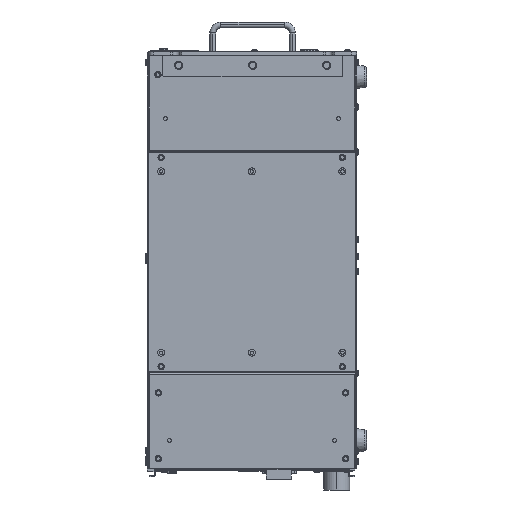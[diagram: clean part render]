
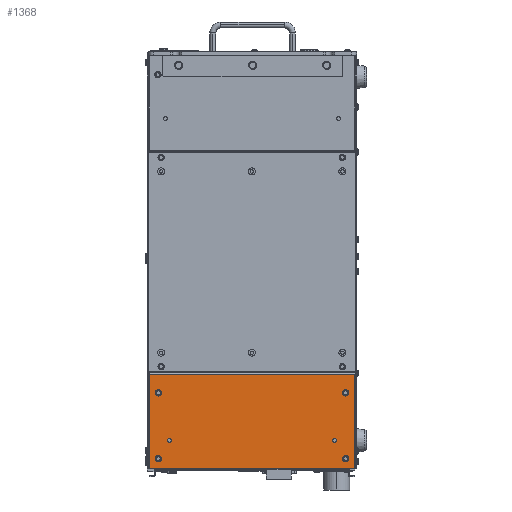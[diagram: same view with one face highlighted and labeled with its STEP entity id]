
A CAD part, left-side view. The second image highlights one B-rep face of the part: STEP entity #1368.
In plain terms, the highlighted planar face has unit normal (-1, 0, 0).
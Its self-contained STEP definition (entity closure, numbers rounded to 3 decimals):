
#1368 = ADVANCED_FACE( '', ( #4139, #4140, #4141, #4142, #4143, #4144, #4145 ), #4146, .T. );
#4139 = FACE_BOUND( '', #7209, .T. );
#4140 = FACE_BOUND( '', #7210, .T. );
#4141 = FACE_BOUND( '', #7211, .T. );
#4142 = FACE_BOUND( '', #7212, .T. );
#4143 = FACE_BOUND( '', #7213, .T. );
#4144 = FACE_BOUND( '', #7214, .T. );
#4145 = FACE_OUTER_BOUND( '', #7215, .T. );
#4146 = PLANE( '', #7216 );
#7209 = EDGE_LOOP( '', ( #17294, #17295 ) );
#7210 = EDGE_LOOP( '', ( #17296, #17297 ) );
#7211 = EDGE_LOOP( '', ( #17298, #17299 ) );
#7212 = EDGE_LOOP( '', ( #17300, #17301 ) );
#7213 = EDGE_LOOP( '', ( #17302, #17303 ) );
#7214 = EDGE_LOOP( '', ( #17304, #17305 ) );
#7215 = EDGE_LOOP( '', ( #17306, #17307, #17308, #17309 ) );
#7216 = AXIS2_PLACEMENT_3D( '', #17310, #17311, #17312 );
#17294 = ORIENTED_EDGE( '', *, *, #20021, .T. );
#17295 = ORIENTED_EDGE( '', *, *, #20467, .T. );
#17296 = ORIENTED_EDGE( '', *, *, #20009, .T. );
#17297 = ORIENTED_EDGE( '', *, *, #20473, .T. );
#17298 = ORIENTED_EDGE( '', *, *, #20475, .T. );
#17299 = ORIENTED_EDGE( '', *, *, #20005, .T. );
#17300 = ORIENTED_EDGE( '', *, *, #20478, .T. );
#17301 = ORIENTED_EDGE( '', *, *, #19995, .T. );
#17302 = ORIENTED_EDGE( '', *, *, #20481, .T. );
#17303 = ORIENTED_EDGE( '', *, *, #19985, .T. );
#17304 = ORIENTED_EDGE( '', *, *, #20495, .T. );
#17305 = ORIENTED_EDGE( '', *, *, #19925, .T. );
#17306 = ORIENTED_EDGE( '', *, *, #22430, .T. );
#17307 = ORIENTED_EDGE( '', *, *, #21043, .T. );
#17308 = ORIENTED_EDGE( '', *, *, #22427, .F. );
#17309 = ORIENTED_EDGE( '', *, *, #22393, .T. );
#17310 = CARTESIAN_POINT( '', ( -215.5, 208., 208.7 ) );
#17311 = DIRECTION( '', ( -1., 0., 0. ) );
#17312 = DIRECTION( '', ( 0., 1., 0. ) );
#19925 = EDGE_CURVE( '', #24127, #24125, #24128, .T. );
#19985 = EDGE_CURVE( '', #24241, #24239, #24242, .T. );
#19995 = EDGE_CURVE( '', #24260, #24258, #24261, .T. );
#20005 = EDGE_CURVE( '', #24279, #24277, #24280, .T. );
#20009 = EDGE_CURVE( '', #24287, #24284, #24288, .T. );
#20021 = EDGE_CURVE( '', #24311, #24308, #24312, .T. );
#20467 = EDGE_CURVE( '', #24308, #24311, #25063, .T. );
#20473 = EDGE_CURVE( '', #24284, #24287, #25069, .T. );
#20475 = EDGE_CURVE( '', #24277, #24279, #25071, .T. );
#20478 = EDGE_CURVE( '', #24258, #24260, #25074, .T. );
#20481 = EDGE_CURVE( '', #24239, #24241, #25077, .T. );
#20495 = EDGE_CURVE( '', #24125, #24127, #25091, .T. );
#21043 = EDGE_CURVE( '', #25946, #25944, #25947, .T. );
#22393 = EDGE_CURVE( '', #28127, #28125, #28128, .T. );
#22427 = EDGE_CURVE( '', #28127, #25944, #28187, .T. );
#22430 = EDGE_CURVE( '', #28125, #25946, #28191, .T. );
#24125 = VERTEX_POINT( '', #30360 );
#24127 = VERTEX_POINT( '', #30363 );
#24128 = CIRCLE( '', #30364, 3.15 );
#24239 = VERTEX_POINT( '', #30486 );
#24241 = VERTEX_POINT( '', #30489 );
#24242 = CIRCLE( '', #30490, 3.15 );
#24258 = VERTEX_POINT( '', #30507 );
#24260 = VERTEX_POINT( '', #30510 );
#24261 = CIRCLE( '', #30511, 3.15 );
#24277 = VERTEX_POINT( '', #30528 );
#24279 = VERTEX_POINT( '', #30531 );
#24280 = CIRCLE( '', #30532, 3.15 );
#24284 = VERTEX_POINT( '', #30537 );
#24287 = VERTEX_POINT( '', #30541 );
#24288 = CIRCLE( '', #30542, 2. );
#24308 = VERTEX_POINT( '', #30567 );
#24311 = VERTEX_POINT( '', #30571 );
#24312 = CIRCLE( '', #30572, 2. );
#25063 = CIRCLE( '', #31582, 2. );
#25069 = CIRCLE( '', #31588, 2. );
#25071 = CIRCLE( '', #31590, 3.15 );
#25074 = CIRCLE( '', #31593, 3.15 );
#25077 = CIRCLE( '', #31596, 3.15 );
#25091 = CIRCLE( '', #31610, 3.15 );
#25944 = VERTEX_POINT( '', #32836 );
#25946 = VERTEX_POINT( '', #32838 );
#25947 = LINE( '', #32839, #32840 );
#28125 = VERTEX_POINT( '', #36113 );
#28127 = VERTEX_POINT( '', #36115 );
#28128 = LINE( '', #36116, #36117 );
#28187 = LINE( '', #36197, #36198 );
#28191 = LINE( '', #36204, #36205 );
#30360 = CARTESIAN_POINT( '', ( -215.5, 14.15, -198.6 ) );
#30363 = CARTESIAN_POINT( '', ( -215.5, 7.85, -198.6 ) );
#30364 = AXIS2_PLACEMENT_3D( '', #38766, #38767, #38768 );
#30486 = CARTESIAN_POINT( '', ( -215.5, 14.15, -132.6 ) );
#30489 = CARTESIAN_POINT( '', ( -215.5, 7.85, -132.6 ) );
#30490 = AXIS2_PLACEMENT_3D( '', #38922, #38923, #38924 );
#30507 = CARTESIAN_POINT( '', ( -215.5, 202.15, -132.6 ) );
#30510 = CARTESIAN_POINT( '', ( -215.5, 195.85, -132.6 ) );
#30511 = AXIS2_PLACEMENT_3D( '', #38948, #38949, #38950 );
#30528 = CARTESIAN_POINT( '', ( -215.5, 202.15, -198.6 ) );
#30531 = CARTESIAN_POINT( '', ( -215.5, 195.85, -198.6 ) );
#30532 = AXIS2_PLACEMENT_3D( '', #38974, #38975, #38976 );
#30537 = CARTESIAN_POINT( '', ( -215.5, 22., -182.3 ) );
#30541 = CARTESIAN_POINT( '', ( -215.5, 22., -178.3 ) );
#30542 = AXIS2_PLACEMENT_3D( '', #38982, #38983, #38984 );
#30567 = CARTESIAN_POINT( '', ( -215.5, 188., -182.3 ) );
#30571 = CARTESIAN_POINT( '', ( -215.5, 188., -178.3 ) );
#30572 = AXIS2_PLACEMENT_3D( '', #39006, #39007, #39008 );
#31582 = AXIS2_PLACEMENT_3D( '', #39826, #39827, #39828 );
#31588 = AXIS2_PLACEMENT_3D( '', #39844, #39845, #39846 );
#31590 = AXIS2_PLACEMENT_3D( '', #39850, #39851, #39852 );
#31593 = AXIS2_PLACEMENT_3D( '', #39859, #39860, #39861 );
#31596 = AXIS2_PLACEMENT_3D( '', #39868, #39869, #39870 );
#31610 = AXIS2_PLACEMENT_3D( '', #39910, #39911, #39912 );
#32836 = CARTESIAN_POINT( '', ( -215.5, 2., -208.7 ) );
#32838 = CARTESIAN_POINT( '', ( -215.5, 208., -208.7 ) );
#32839 = CARTESIAN_POINT( '', ( -215.5, 208., -208.7 ) );
#32840 = VECTOR( '', #40808, 1. );
#36113 = CARTESIAN_POINT( '', ( -215.5, 208., -113.71 ) );
#36115 = CARTESIAN_POINT( '', ( -215.5, 2., -113.71 ) );
#36116 = CARTESIAN_POINT( '', ( -215.5, 219., -113.71 ) );
#36117 = VECTOR( '', #42704, 1. );
#36197 = CARTESIAN_POINT( '', ( -215.5, 2., 208.7 ) );
#36198 = VECTOR( '', #42762, 1. );
#36204 = CARTESIAN_POINT( '', ( -215.5, 208., 208.7 ) );
#36205 = VECTOR( '', #42765, 1. );
#38766 = CARTESIAN_POINT( '', ( -215.5, 11., -198.6 ) );
#38767 = DIRECTION( '', ( 1., 0., 0. ) );
#38768 = DIRECTION( '', ( 0., 1., 0. ) );
#38922 = CARTESIAN_POINT( '', ( -215.5, 11., -132.6 ) );
#38923 = DIRECTION( '', ( 1., 0., 0. ) );
#38924 = DIRECTION( '', ( 0., 1., 0. ) );
#38948 = CARTESIAN_POINT( '', ( -215.5, 199., -132.6 ) );
#38949 = DIRECTION( '', ( 1., 0., 0. ) );
#38950 = DIRECTION( '', ( 0., 1., 0. ) );
#38974 = CARTESIAN_POINT( '', ( -215.5, 199., -198.6 ) );
#38975 = DIRECTION( '', ( 1., 0., 0. ) );
#38976 = DIRECTION( '', ( 0., 1., 0. ) );
#38982 = CARTESIAN_POINT( '', ( -215.5, 22., -180.3 ) );
#38983 = DIRECTION( '', ( 1., 0., 0. ) );
#38984 = DIRECTION( '', ( 0., 0., -1. ) );
#39006 = CARTESIAN_POINT( '', ( -215.5, 188., -180.3 ) );
#39007 = DIRECTION( '', ( 1., 0., 0. ) );
#39008 = DIRECTION( '', ( 0., 0., -1. ) );
#39826 = CARTESIAN_POINT( '', ( -215.5, 188., -180.3 ) );
#39827 = DIRECTION( '', ( 1., 0., 0. ) );
#39828 = DIRECTION( '', ( 0., 0., -1. ) );
#39844 = CARTESIAN_POINT( '', ( -215.5, 22., -180.3 ) );
#39845 = DIRECTION( '', ( 1., 0., 0. ) );
#39846 = DIRECTION( '', ( 0., 0., -1. ) );
#39850 = CARTESIAN_POINT( '', ( -215.5, 199., -198.6 ) );
#39851 = DIRECTION( '', ( 1., 0., 0. ) );
#39852 = DIRECTION( '', ( 0., 1., 0. ) );
#39859 = CARTESIAN_POINT( '', ( -215.5, 199., -132.6 ) );
#39860 = DIRECTION( '', ( 1., 0., 0. ) );
#39861 = DIRECTION( '', ( 0., 1., 0. ) );
#39868 = CARTESIAN_POINT( '', ( -215.5, 11., -132.6 ) );
#39869 = DIRECTION( '', ( 1., 0., 0. ) );
#39870 = DIRECTION( '', ( 0., 1., 0. ) );
#39910 = CARTESIAN_POINT( '', ( -215.5, 11., -198.6 ) );
#39911 = DIRECTION( '', ( 1., 0., 0. ) );
#39912 = DIRECTION( '', ( 0., 1., 0. ) );
#40808 = DIRECTION( '', ( 0., -1., 0. ) );
#42704 = DIRECTION( '', ( 0., 1., 0. ) );
#42762 = DIRECTION( '', ( 0., 0., -1. ) );
#42765 = DIRECTION( '', ( 0., 0., -1. ) );
